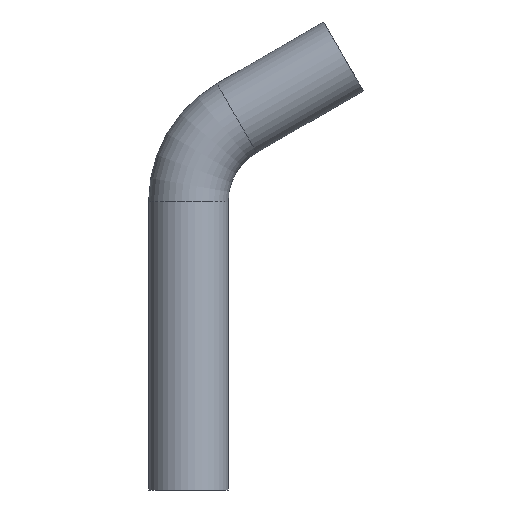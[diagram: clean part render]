
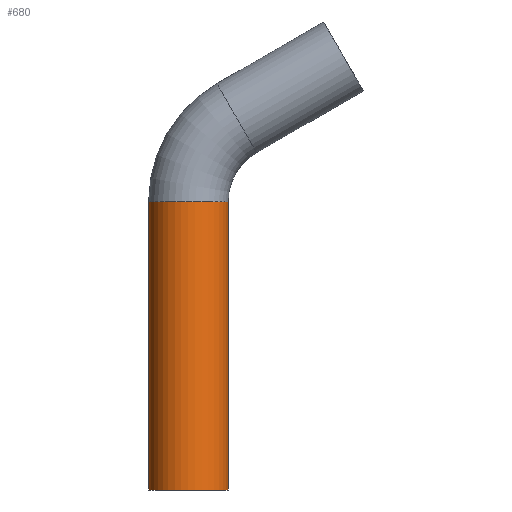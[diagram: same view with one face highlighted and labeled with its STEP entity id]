
A CAD part, front view. The second image highlights one B-rep face of the part: STEP entity #680.
In plain terms, the highlighted cylindrical face has radius 14 mm (diameter 28 mm), a partial arc.
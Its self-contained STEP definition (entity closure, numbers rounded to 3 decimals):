
#210=CARTESIAN_POINT('',(50.717,48.566,0.));
#220=DIRECTION('',(0.,0.,1.));
#230=DIRECTION('',(1.,0.,0.));
#240=AXIS2_PLACEMENT_3D('',#210,#220,#230);
#250=CIRCLE('',#240,14.);
#260=CARTESIAN_POINT('',(64.717,48.566,0.));
#270=VERTEX_POINT('',#260);
#280=CARTESIAN_POINT('',(36.717,48.566,0.));
#290=VERTEX_POINT('',#280);
#320=EDGE_CURVE('',#290,#270,#250,.T.);
#370=CARTESIAN_POINT('',(50.717,48.566,0.));
#380=DIRECTION('',(0.,0.,1.));
#390=DIRECTION('',(1.,0.,0.));
#400=AXIS2_PLACEMENT_3D('',#370,#380,#390);
#410=CYLINDRICAL_SURFACE('',#400,14.);
#420=CARTESIAN_POINT('',(64.717,48.566,0.));
#430=DIRECTION('',(0.,0.,1.));
#440=VECTOR('',#430,1.);
#450=LINE('',#420,#440);
#460=CARTESIAN_POINT('',(64.717,48.566,101.37));
#470=VERTEX_POINT('',#460);
#480=EDGE_CURVE('',#270,#470,#450,.T.);
#490=ORIENTED_EDGE('',*,*,#480,.T.);
#500=ORIENTED_EDGE('',*,*,#320,.T.);
#510=CARTESIAN_POINT('',(36.717,48.566,0.));
#520=DIRECTION('',(0.,0.,1.));
#530=VECTOR('',#520,1.);
#540=LINE('',#510,#530);
#550=CARTESIAN_POINT('',(36.717,48.566,101.37));
#560=VERTEX_POINT('',#550);
#570=EDGE_CURVE('',#290,#560,#540,.T.);
#580=ORIENTED_EDGE('',*,*,#570,.F.);
#590=CARTESIAN_POINT('',(50.717,48.566,101.37));
#600=DIRECTION('',(0.,0.,1.));
#610=DIRECTION('',(1.,0.,0.));
#620=AXIS2_PLACEMENT_3D('',#590,#600,#610);
#630=CIRCLE('',#620,14.);
#640=EDGE_CURVE('',#560,#470,#630,.T.);
#650=ORIENTED_EDGE('',*,*,#640,.F.);
#660=EDGE_LOOP('',(#650,#580,#500,#490));
#670=FACE_OUTER_BOUND('',#660,.T.);
#680=ADVANCED_FACE('',(#670),#410,.T.);
